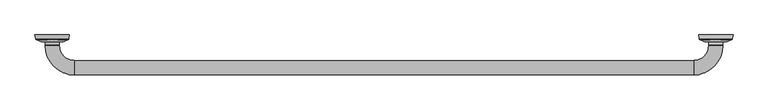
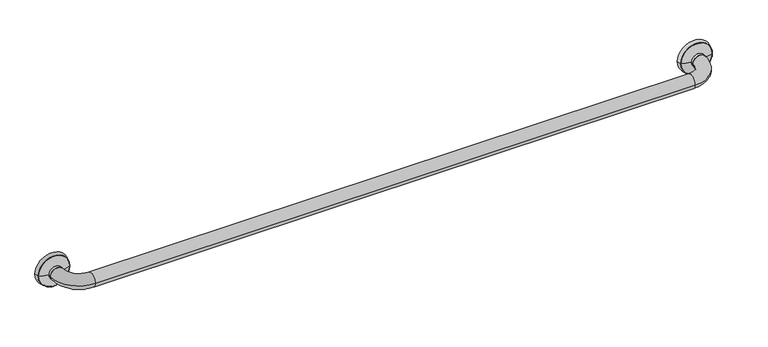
"""IFC4 building model written with IfcOpenShell, lengths in millimetres: proxy geometry, Grab Rail_Metlam_Straight_Horizontal : 1532long x 90d x 32h (ML336SS)."""

from ifc_helpers import new_model, si_unit, point, frame, origin, place, context, project, spatial, polyline, circle_curve, ellipse_curve, trimmed, source, transform, mapped, element, save
from ifc_brep_helpers import plane_surface, cylinder_surface, revolved_surface, advanced_brep


def specialty_equipment_8ea1b790(model_context):
    return source(origin(), model_context, "Body", "AdvancedBrep", [
        advanced_brep(
        [(89.0, -58.0, 784.0), (55.0, -24.0, 784.0), (23.0, -24.0, 784.0), (89.0, -90.0, 784.0), (1489.0, -90.0, 784.0), (1489.0, -58.0, 784.0), (1555.0, -24.0, 784.0), (1523.0, -24.0, 784.0), (55.0, -23.0, 784.0), (23.0, -23.0, 784.0), (1555.0, -23.0, 784.0), (1523.0, -23.0, 784.0), (0.0, 0.0, 784.0), (78.0, 0.0, 784.0), (76.1870729, -9.0646354, 784.0), (1.8129271, -9.0646354, 784.0), (2.8615925, -10.4521085, 784.0), (75.1384075, -10.4521085, 784.0), (55.0, -16.0065539, 784.0), (23.0, -16.0065539, 784.0), (39.0, 0.0, 784.0), (1578.0, 0.0, 784.0), (1500.0, 0.0, 784.0), (1539.0, 0.0, 784.0), (1576.1870729, -9.0646354, 784.0), (1501.8129271, -9.0646354, 784.0), (1555.0, -16.0065539, 784.0), (1523.0, -16.0065539, 784.0), (1502.8615925, -10.4521085, 784.0), (1575.1384075, -10.4521085, 784.0)],
        [
            (0, 1, circle_curve(frame((89.0, -24.0, 784.0), z_axis=(0.0, 0.0, -1.0), x_axis=(-1.0, 0.0, 0.0)), 34.0)),
            (1, 2, circle_curve(frame((39.0, -24.0, 784.0), z_axis=(0.0, -1.0, 0.0), x_axis=(1.0, 0.0, 0.0)), 16.0)),
            (2, 3, circle_curve(frame((89.0, -24.0, 784.0), z_axis=(0.0, 0.0, 1.0), x_axis=(-1.0, 0.0, 0.0)), 66.0)),
            (3, 0, circle_curve(frame((89.0, -74.0, 784.0), z_axis=(-1.0, 1.5217557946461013e-12, 0.0), x_axis=(1.5217557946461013e-12, 1.0, 0.0)), 16.0)),
            (0, 3, circle_curve(frame((89.0, -74.0, 784.0), z_axis=(-1.0, 2.9459498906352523e-12, 0.0), x_axis=(2.9459498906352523e-12, 1.0, 0.0)), 16.0)),
            (2, 1, circle_curve(frame((39.0, -24.0, 784.0), z_axis=(0.0, -1.0, 0.0), x_axis=(1.0, 0.0, 0.0)), 16.0)),
            (3, 4),
            (4, 5, circle_curve(frame((1489.0, -74.0, 784.0), z_axis=(-1.0, 0.0, 0.0), x_axis=(0.0, 1.0, 0.0)), 16.0)),
            (5, 0),
            (5, 4, circle_curve(frame((1489.0, -74.0, 784.0), z_axis=(-1.0, 0.0, 0.0), x_axis=(0.0, 1.0, 0.0)), 16.0)),
            (4, 6, circle_curve(frame((1489.0, -24.0, 784.0), z_axis=(0.0, 0.0, 1.0), x_axis=(0.0, -1.0, 0.0)), 66.0)),
            (6, 7, circle_curve(frame((1539.0, -24.0, 784.0), z_axis=(0.0, -1.0, 0.0), x_axis=(-1.0, 0.0, 0.0)), 16.0)),
            (7, 5, circle_curve(frame((1489.0, -24.0, 784.0), z_axis=(0.0, 0.0, -1.0), x_axis=(0.0, -1.0, 0.0)), 34.0)),
            (7, 6, circle_curve(frame((1539.0, -24.0, 784.0), z_axis=(0.0, -1.0, 0.0), x_axis=(-1.0, 0.0, 0.0)), 16.0)),
            (1, 8),
            (8, 9, circle_curve(frame((39.0, -23.0, 784.0), z_axis=(0.0, -1.0, 0.0), x_axis=(1.0, 0.0, 0.0)), 16.0)),
            (9, 2),
            (9, 8, circle_curve(frame((39.0, -23.0, 784.0), z_axis=(0.0, -1.0, 0.0), x_axis=(1.0, 0.0, 0.0)), 16.0)),
            (6, 10),
            (10, 11, circle_curve(frame((1539.0, -23.0, 784.0), z_axis=(0.0, -1.0, 0.0), x_axis=(-1.0, 0.0, 0.0)), 16.0)),
            (11, 7),
            (11, 10, circle_curve(frame((1539.0, -23.0, 784.0), z_axis=(0.0, -1.0, 0.0), x_axis=(-1.0, 0.0, 0.0)), 16.0)),
            (12, 13, circle_curve(frame((39.0, 0.0, 784.0), z_axis=(0.0, -1.0, 0.0), x_axis=(1.0, 0.0, 0.0)), 39.0)),
            (13, 14),
            (14, 15, circle_curve(frame((39.0, -9.0646354, 784.0), z_axis=(0.0, 1.0, 0.0), x_axis=(1.0, 0.0, 0.0)), 37.1870729)),
            (15, 12),
            (13, 12, circle_curve(frame((39.0, 0.0, 784.0), z_axis=(0.0, -1.0, 0.0), x_axis=(1.0, 0.0, 0.0)), 39.0)),
            (15, 14, circle_curve(frame((39.0, -9.0646354, 784.0), z_axis=(0.0, 1.0, 0.0), x_axis=(1.0, 0.0, 0.0)), 37.1870729)),
            (16, 17, circle_curve(frame((39.0, -10.4521085, 784.0), z_axis=(0.0, -1.0, 0.0), x_axis=(1.0, 0.0, 0.0)), 36.1384075)),
            (17, 18, circle_curve(frame((51.6887092, 35.2834961, 784.0), z_axis=(0.0, 0.0, -1.0), x_axis=(-1.0, 0.0, 0.0)), 51.3968275)),
            (18, 19, circle_curve(frame((39.0, -16.0065539, 784.0), z_axis=(0.0, 1.0, 0.0), x_axis=(1.0, 0.0, 0.0)), 16.0)),
            (19, 16, circle_curve(frame((26.3112908, 35.2834961, 784.0), z_axis=(0.0, 0.0, -1.0), x_axis=(1.0, 0.0, 0.0)), 51.3968275)),
            (17, 16, circle_curve(frame((39.0, -10.4521085, 784.0), z_axis=(0.0, -1.0, 0.0), x_axis=(1.0, 0.0, 0.0)), 36.1384075)),
            (19, 18, circle_curve(frame((39.0, -16.0065539, 784.0), z_axis=(0.0, 1.0, 0.0), x_axis=(1.0, 0.0, 0.0)), 16.0)),
            (18, 8),
            (9, 19),
            (12, 20),
            (20, 13),
            (14, 17, circle_curve(frame((74.2259116, -8.6724031, 784.0), z_axis=(0.0, 0.0, -1.0), x_axis=(-1.0, 0.0, 0.0)), 2.0)),
            (16, 15, circle_curve(frame((3.7740884, -8.6724031, 784.0), z_axis=(0.0, 0.0, -1.0), x_axis=(1.0, 0.0, 0.0)), 2.0)),
            (21, 22, circle_curve(frame((1539.0, 0.0, 784.0), z_axis=(0.0, 1.0, 0.0), x_axis=(-1.0, 0.0, 0.0)), 39.0)),
            (22, 23),
            (23, 21),
            (22, 21, circle_curve(frame((1539.0, 0.0, 784.0), z_axis=(0.0, 1.0, 0.0), x_axis=(-1.0, 0.0, 0.0)), 39.0)),
            (21, 24),
            (24, 25, circle_curve(frame((1539.0, -9.0646354, 784.0), z_axis=(0.0, 1.0, 0.0), x_axis=(-1.0, 0.0, 0.0)), 37.1870729)),
            (25, 22),
            (25, 24, circle_curve(frame((1539.0, -9.0646354, 784.0), z_axis=(0.0, 1.0, 0.0), x_axis=(-1.0, 0.0, 0.0)), 37.1870729)),
            (26, 27, circle_curve(frame((1539.0, -16.0065539, 784.0), z_axis=(0.0, 1.0, 0.0), x_axis=(-1.0, 0.0, 0.0)), 16.0)),
            (27, 28, circle_curve(frame((1526.3112908, 35.2834961, 784.0), z_axis=(0.0, 0.0, -1.0), x_axis=(-1.0, 0.0, 0.0)), 51.3968275)),
            (28, 29, circle_curve(frame((1539.0, -10.4521085, 784.0), z_axis=(0.0, -1.0, 0.0), x_axis=(-1.0, 0.0, 0.0)), 36.1384075)),
            (29, 26, circle_curve(frame((1551.6887092, 35.2834961, 784.0), z_axis=(0.0, 0.0, -1.0), x_axis=(1.0, 0.0, 0.0)), 51.3968275)),
            (27, 26, circle_curve(frame((1539.0, -16.0065539, 784.0), z_axis=(0.0, 1.0, 0.0), x_axis=(-1.0, 0.0, 0.0)), 16.0)),
            (29, 28, circle_curve(frame((1539.0, -10.4521085, 784.0), z_axis=(0.0, -1.0, 0.0), x_axis=(-1.0, 0.0, 0.0)), 36.1384075)),
            (26, 10),
            (11, 27),
            (24, 29, circle_curve(frame((1574.2259116, -8.6724031, 784.0), z_axis=(0.0, 0.0, -1.0), x_axis=(1.0, 0.0, 0.0)), 2.0)),
            (28, 25, circle_curve(frame((1503.7740884, -8.6724031, 784.0), z_axis=(0.0, 0.0, -1.0), x_axis=(-1.0, 0.0, 0.0)), 2.0)),
        ],
        [
            revolved_surface(trimmed(ellipse_curve(frame((39.0, -24.0, 784.0), z_axis=(0.0, 1.0, 0.0), x_axis=(1.0, 0.0, 0.0)), 16.0, 16.0), [point((23.0, -24.0, 784.0))], [point((55.0, -24.0, 784.0))], True, "CARTESIAN"), (89.0, -24.0, 784.0), (0.0, 0.0, 1.0)),
            revolved_surface(trimmed(ellipse_curve(frame((39.0, -24.0, 784.0), z_axis=(0.0, 1.0, 0.0), x_axis=(1.0, 0.0, 0.0)), 16.0, 16.0), [point((55.0, -24.0, 784.0))], [point((23.0, -24.0, 784.0))], True, "CARTESIAN"), (89.0, -24.0, 784.0), (0.0, 0.0, 1.0)),
            cylinder_surface(frame((89.0, -74.0, 784.0), z_axis=(-1.0, 0.0, 0.0), x_axis=(0.0, 1.0, 0.0)), 16.0),
            revolved_surface(trimmed(ellipse_curve(frame((1489.0, -74.0, 784.0), z_axis=(-1.0, 0.0, 0.0), x_axis=(0.0, 1.0, 0.0)), 16.0, 16.0), [point((1489.0, -90.0, 784.0))], [point((1489.0, -58.0, 784.0))], True, "CARTESIAN"), (1489.0, -24.0, 784.0), (0.0, 0.0, 1.0)),
            revolved_surface(trimmed(ellipse_curve(frame((1489.0, -74.0, 784.0), z_axis=(-1.0, 0.0, 0.0), x_axis=(0.0, 1.0, 0.0)), 16.0, 16.0), [point((1489.0, -58.0, 784.0))], [point((1489.0, -90.0, 784.0))], True, "CARTESIAN"), (1489.0, -24.0, 784.0), (0.0, 0.0, 1.0)),
            cylinder_surface(frame((39.0, -23.0, 784.0), z_axis=(0.0, 1.0, 0.0), x_axis=(1.0, 0.0, 0.0)), 16.0),
            cylinder_surface(frame((1539.0, -24.0, 784.0), z_axis=(0.0, -1.0, 0.0), x_axis=(-1.0, 0.0, 0.0)), 16.0),
            revolved_surface(polyline([(76.1870729, -9.0646354, 784.0), (78.0, 0.0, 784.0)]), (39.0, -10.0, 784.0), (0.0, 1.0, 0.0)),
            revolved_surface(trimmed(ellipse_curve(frame((51.6887092, 35.2834961, 784.0), z_axis=(0.0, 0.0, 1.0), x_axis=(-1.0, 0.0, 0.0)), 51.3968275, 51.3968275), [point((55.0, -16.0065539, 784.0))], [point((75.1384075, -10.4521085, 784.0))], True, "CARTESIAN"), (39.0, -10.0, 784.0), (0.0, 1.0, 0.0)),
            cylinder_surface(frame((39.0, -10.0, 784.0), z_axis=(0.0, 1.0, 0.0), x_axis=(1.0, 0.0, 0.0)), 16.0),
            plane_surface(frame((39.0, 0.0, 784.0), z_axis=(0.0, 1.0, 0.0), x_axis=(1.0, 0.0, 0.0))),
            revolved_surface(trimmed(ellipse_curve(frame((74.2259116, -8.6724031, 784.0), z_axis=(0.0, 0.0, 1.0), x_axis=(-1.0, 0.0, 0.0)), 2.0, 2.0), [point((75.1384075, -10.4521085, 784.0))], [point((76.1870729, -9.0646354, 784.0))], True, "CARTESIAN"), (39.0, -10.0, 784.0), (0.0, 1.0, 0.0)),
            plane_surface(frame((1539.0, 0.0, 784.0), z_axis=(0.0, 1.0, 0.0), x_axis=(-1.0, 0.0, 0.0))),
            revolved_surface(polyline([(1500.0, 0.0, 784.0), (1501.8129271, -9.0646354, 784.0)]), (1539.0, -10.0, 784.0), (0.0, -1.0, 0.0)),
            revolved_surface(trimmed(ellipse_curve(frame((1526.3112908, 35.2834961, 784.0), z_axis=(0.0, 0.0, 1.0), x_axis=(-1.0, 0.0, 0.0)), 51.3968275, 51.3968275), [point((1502.8615925, -10.4521085, 784.0))], [point((1523.0, -16.0065539, 784.0))], True, "CARTESIAN"), (1539.0, -10.0, 784.0), (0.0, -1.0, 0.0)),
            cylinder_surface(frame((1539.0, -10.0, 784.0), z_axis=(0.0, -1.0, 0.0), x_axis=(-1.0, 0.0, 0.0)), 16.0),
            revolved_surface(trimmed(ellipse_curve(frame((1503.7740884, -8.6724031, 784.0), z_axis=(0.0, 0.0, 1.0), x_axis=(-1.0, 0.0, 0.0)), 2.0, 2.0), [point((1501.8129271, -9.0646354, 784.0))], [point((1502.8615925, -10.4521085, 784.0))], True, "CARTESIAN"), (1539.0, -10.0, 784.0), (0.0, -1.0, 0.0)),
        ],
        [
            (0, [[1, 2, 3, 4]]),
            (1, [[-1, 5, -3, 6]]),
            (2, [[-4, 7, 8, 9]]),
            (2, [[-5, -9, 10, -7]]),
            (3, [[-8, 11, 12, 13]]),
            (4, [[-10, -13, 14, -11]]),
            (5, [[-2, 15, 16, 17]]),
            (5, [[-6, -17, 18, -15]]),
            (6, [[-12, 19, 20, 21]]),
            (6, [[-14, -21, 22, -19]]),
            (7, [[23, 24, 25, 26]]),
            (7, [[-24, 27, -26, 28]]),
            (8, [[29, 30, 31, 32]]),
            (8, [[-30, 33, -32, 34]]),
            (9, [[-31, 35, -18, 36]]),
            (9, [[-34, -36, -16, -35]]),
            (10, [[-23, 37, 38]]),
            (10, [[-27, -38, -37]]),
            (11, [[-25, 39, -29, 40]]),
            (11, [[-28, -40, -33, -39]]),
            (12, [[41, 42, 43]]),
            (12, [[-42, 44, -43]]),
            (13, [[-41, 45, 46, 47]]),
            (13, [[-44, -47, 48, -45]]),
            (14, [[49, 50, 51, 52]]),
            (14, [[-50, 53, -52, 54]]),
            (15, [[-49, 55, -22, 56]]),
            (15, [[-53, -56, -20, -55]]),
            (16, [[-46, 57, -51, 58]]),
            (16, [[-48, -58, -54, -57]]),
        ],
    ),
    ])


if __name__ == "__main__":
    model = new_model("IFC4")
    model_context = context("Model", 3, world=origin())
    ifc_project = project(units=[si_unit("LENGTHUNIT", "METRE", prefix="MILLI")], contexts=[model_context])
    site = spatial("IfcSite", under=ifc_project)
    building = spatial("IfcBuilding", under=site)
    placement = place(None, origin())
    specialty_equipment_shape = specialty_equipment_8ea1b790(model_context)
    element("IfcBuildingElementProxy", 1, Name="Grab Rail_Metlam_Straight_Horizontal : 1532long x 90d x 32h (ML336SS)", ObjectType="Grab Rail_Metlam_Straight_Horizontal : 1532long x 90d x 32h (ML336SS)", at=placement, inside=building, context=model_context, shape_type="MappedRepresentation", body=[
        mapped(specialty_equipment_shape, transform((0.0, 0.0, 0.0), x_axis=(1.0, 0.0, 0.0), y_axis=(0.0, 1.0, 0.0), z_axis=(0.0, 0.0, 1.0))),
    ])
    save(model, "model.ifc")
